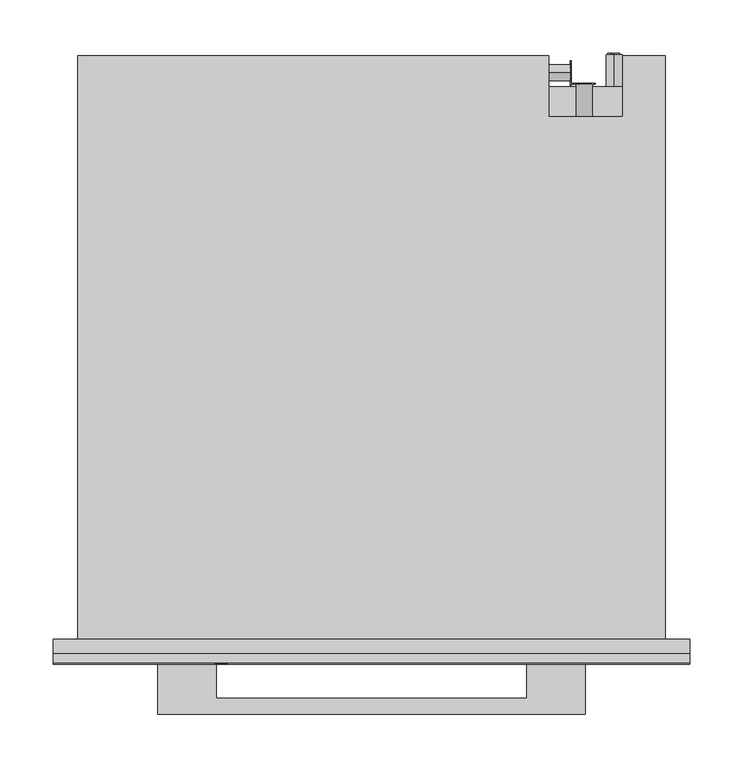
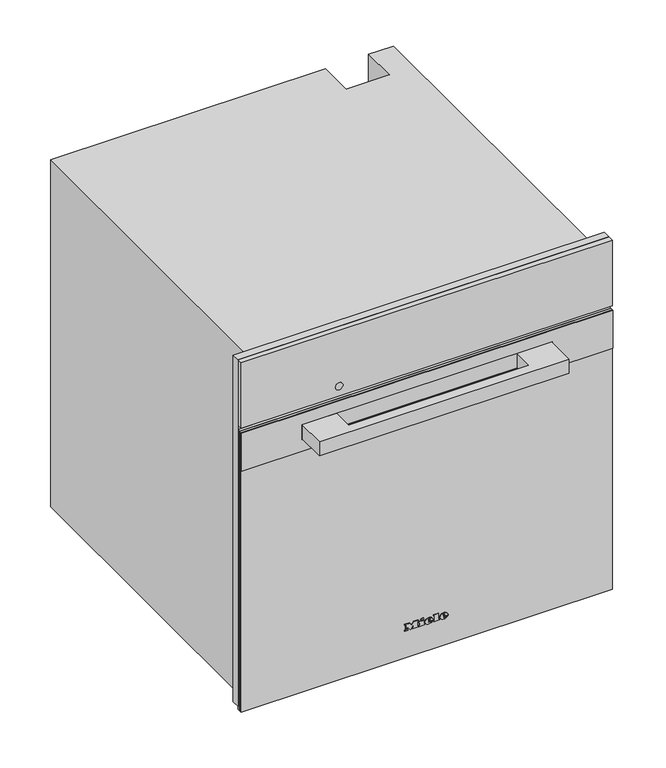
"""IFC4 building model written with IfcOpenShell, lengths in millimetres: proxy geometry, 12094890_F_DGC7665HCPro_EDST-C : 23766549_F_12094890_DGC7665HCPro_EDST-C."""

import ifcopenshell
import ifcopenshell.guid

model = None  # the IFC model being written
_history = None  # IfcOwnerHistory: only IFC2X3 demands one
_inside = {}  # id of a spatial element -> (the spatial element, [elements in it])
_under = {}  # id of a project, library or spatial element -> (it, [spatial elements below it])
_declared = {}  # id of a project -> (the project, [libraries it declares])
_typed = {}  # id of a type object -> (the type object, [elements of that type])
_made_of = {}  # id of a material, layer set ... -> (it, [elements and type objects made of it])


def new_model(schema):
    """Start an empty IFC model of exactly this schema.

    Asked for "IFC4X3", IfcOpenShell would pick the latest addendum, in which some entities
    have other attributes; the version numbers below select the first issue.
    IFC2X3 requires an IfcOwnerHistory on every rooted entity: one is made here for all.
    """
    global model, _history
    if schema == "IFC4X3":
        model = ifcopenshell.file(schema_version=(4, 3, 0, 0))
    else:
        model = ifcopenshell.file(schema=schema)
    _inside.clear()
    _under.clear()
    _declared.clear()
    _typed.clear()
    _made_of.clear()
    _history = None
    if model.schema == "IFC2X3":
        org = make("IfcOrganization", Name="unknown")
        user = make(
            "IfcPersonAndOrganization",
            ThePerson=make("IfcPerson", FamilyName="unknown"),
            TheOrganization=org,
        )
        app = make(
            "IfcApplication",
            ApplicationDeveloper=org,
            Version="unknown",
            ApplicationFullName="unknown",
            ApplicationIdentifier="unknown",
        )
        _history = make(
            "IfcOwnerHistory",
            OwningUser=user,
            OwningApplication=app,
            ChangeAction="ADDED",
            CreationDate=0,
        )
    return model


def make(cls, **values):
    """One entity of the class cls with the attributes given. An attribute that is None is left unset."""
    return model.create_entity(
        cls, **{name: value for name, value in values.items() if value is not None}
    )


def rooted(cls, **values):
    """An entity with a GlobalId (a new one), such as an element, a storey or a relation."""
    return make(cls, GlobalId=ifcopenshell.guid.new(), OwnerHistory=_history, **values)


def si_unit(unit_type, name, prefix=None):
    """IfcSIUnit, for example si_unit("LENGTHUNIT", "METRE", prefix="MILLI")."""
    return make("IfcSIUnit", UnitType=unit_type, Prefix=prefix, Name=name)


def assignment(units):
    """IfcUnitAssignment: the units of a project."""
    return None if units is None else make("IfcUnitAssignment", Units=units)


def point(xyz):
    """IfcCartesianPoint."""
    return None if xyz is None else make("IfcCartesianPoint", Coordinates=xyz)


def direction(xyz):
    """IfcDirection."""
    return None if xyz is None else make("IfcDirection", DirectionRatios=xyz)


def frame(location, z_axis=None, x_axis=None):
    """IfcAxis2Placement3D, a coordinate frame: its origin and axes. An axis left out is left unset."""
    return make(
        "IfcAxis2Placement3D",
        Location=point(location),
        Axis=direction(z_axis),
        RefDirection=direction(x_axis),
    )


def frame_2d(location, x_axis=None):
    """IfcAxis2Placement2D, a coordinate frame in the plane: its origin and x axis."""
    return make(
        "IfcAxis2Placement2D", Location=point(location), RefDirection=direction(x_axis)
    )


def origin():
    """The frame at (0, 0, 0) with its axes left unset."""
    return frame((0.0, 0.0, 0.0))


def place(relative_to, where):
    """IfcLocalPlacement: puts the frame where relative to a parent placement (None: the world)."""
    return make(
        "IfcLocalPlacement", PlacementRelTo=relative_to, RelativePlacement=where
    )


def context(
    kind, dimensions, precision=None, world=None, true_north=None, identifier=None
):
    """IfcGeometricRepresentationContext, for example the 3D "Model" context."""
    return make(
        "IfcGeometricRepresentationContext",
        ContextIdentifier=identifier,
        ContextType=kind,
        CoordinateSpaceDimension=dimensions,
        Precision=precision,
        WorldCoordinateSystem=world,
        TrueNorth=true_north,
    )


def project(units=None, contexts=None):
    """IfcProject with its units and contexts."""
    return rooted(
        "IfcProject",
        Name="project",
        RepresentationContexts=contexts,
        UnitsInContext=assignment(units),
    )


def spatial(cls, under=None, at=None, **own):
    """A site, building, storey or space (cls), placed at a placement, below another one or the project."""
    s = rooted(cls, ObjectPlacement=at, **own)
    if under is not None:
        _under.setdefault(under.id(), (under, []))[1].append(s)
    return s


def polyline(points):
    """IfcPolyline through the points."""
    return make("IfcPolyline", Points=[point(p) for p in points])


def circle_curve(where, radius):
    """IfcCircle in the frame where."""
    return make("IfcCircle", Position=where, Radius=radius)


def ellipse_curve(where, semi_axis1, semi_axis2):
    """IfcEllipse in the frame where."""
    return make(
        "IfcEllipse", Position=where, SemiAxis1=semi_axis1, SemiAxis2=semi_axis2
    )


def trimmed(basis, trim1, trim2, sense, master):
    """IfcTrimmedCurve: the piece of a basis curve between two trims."""
    return make(
        "IfcTrimmedCurve",
        BasisCurve=basis,
        Trim1=trim1,
        Trim2=trim2,
        SenseAgreement=sense,
        MasterRepresentation=master,
    )


def segment(curve, same_sense, transition):
    """IfcCompositeCurveSegment."""
    return make(
        "IfcCompositeCurveSegment",
        Transition=transition,
        SameSense=same_sense,
        ParentCurve=curve,
    )


def composite_curve(segments, self_intersect=None):
    """IfcCompositeCurve: segments joined end to end."""
    return make("IfcCompositeCurve", Segments=segments, SelfIntersect=self_intersect)


def outline(outer, holes=None, kind="AREA"):
    """IfcArbitraryClosedProfileDef: a profile drawn as a closed curve; with holes, ...WithVoids."""
    if holes is None:
        return make("IfcArbitraryClosedProfileDef", ProfileType=kind, OuterCurve=outer)
    return make(
        "IfcArbitraryProfileDefWithVoids",
        ProfileType=kind,
        OuterCurve=outer,
        InnerCurves=holes,
    )


def extrude(swept, where, along, depth):
    """IfcExtrudedAreaSolid: the profile swept, set in the frame where, extruded along a direction by depth."""
    return make(
        "IfcExtrudedAreaSolid",
        SweptArea=swept,
        Position=where,
        ExtrudedDirection=direction(along),
        Depth=depth,
    )


def faces_of(points, faces, orient=None, outer=None):
    """IfcFace entities. A face is a list of loops; a loop is a list of indices into points, from 0.

    orient and outer hold one flag for each loop. By default every Orientation is true, the
    first loop of a face is its IfcFaceOuterBound and the others are IfcFaceBound.
    """
    made = []
    for i, loops in enumerate(faces):
        bounds = []
        for j, loop in enumerate(loops):
            is_outer = j == 0 if outer is None else outer[i][j]
            bounds.append(
                make(
                    "IfcFaceOuterBound" if is_outer else "IfcFaceBound",
                    Bound=make("IfcPolyLoop", Polygon=[points[k] for k in loop]),
                    Orientation=True if orient is None else orient[i][j],
                )
            )
        made.append(make("IfcFace", Bounds=bounds))
    return made


def faceted_brep(points, faces, orient=None, outer=None, voids=None):
    """IfcFacetedBrep: a solid bounded by flat faces; with voids (closed shells), ...WithVoids."""
    shared = [point(p) for p in points]
    hull = make("IfcClosedShell", CfsFaces=faces_of(shared, faces, orient, outer))
    if voids is None:
        return make("IfcFacetedBrep", Outer=hull)
    return make(
        "IfcFacetedBrepWithVoids",
        Outer=hull,
        Voids=[
            make(cls, CfsFaces=faces_of(shared, fs, o, b)) for cls, fs, o, b in voids
        ],
    )


def shape(context_of_items, identifier, shape_type, items):
    """IfcShapeRepresentation: the items that make up one representation, for example the "Body"."""
    return make(
        "IfcShapeRepresentation",
        ContextOfItems=context_of_items,
        RepresentationIdentifier=identifier,
        RepresentationType=shape_type,
        Items=items,
    )


def source(mapping_origin, context_of_items, identifier, shape_type, items):
    """IfcRepresentationMap: a shape defined once, which mapped items show again and again."""
    return make(
        "IfcRepresentationMap",
        MappingOrigin=mapping_origin,
        MappedRepresentation=shape(context_of_items, identifier, shape_type, items),
    )


def transform(
    local_origin,
    x_axis=None,
    y_axis=None,
    z_axis=None,
    scale=None,
    scale2=None,
    scale3=None,
    uniform=True,
):
    """IfcCartesianTransformationOperator3D, or its non-uniform kind. x_axis, y_axis, z_axis: its Axis1, 2, 3."""
    if uniform:
        return make(
            "IfcCartesianTransformationOperator3D",
            Axis1=direction(x_axis),
            Axis2=direction(y_axis),
            LocalOrigin=point(local_origin),
            Scale=scale,
            Axis3=direction(z_axis),
        )
    return make(
        "IfcCartesianTransformationOperator3DnonUniform",
        Axis1=direction(x_axis),
        Axis2=direction(y_axis),
        LocalOrigin=point(local_origin),
        Scale=scale,
        Axis3=direction(z_axis),
        Scale2=scale2,
        Scale3=scale3,
    )


def mapped(mapping_source, mapping_target):
    """IfcMappedItem: shows the shape of a source again, moved by a transform."""
    return make(
        "IfcMappedItem", MappingSource=mapping_source, MappingTarget=mapping_target
    )


def made_of(thing, what):
    """Note that an element or type object is made of a material, layer set ...; save() writes the relation."""
    if what is not None:
        _made_of.setdefault(what.id(), (what, []))[1].append(thing)
    return thing


def element(
    cls,
    number,
    at=None,
    inside=None,
    cuts=None,
    type_object=None,
    material=None,
    context=None,
    identifier="Body",
    shape_type=None,
    held_by="IfcProductDefinitionShape",
    body=None,
    shapes=None,
    **own,
):
    """One element of the class cls, such as IfcWall. Its Tag is "e" and its number.

    at: its placement. inside: the storey or other place that contains it. cuts: it is an
    opening in that element (IfcRelVoidsElement). A single representation is given by context,
    identifier, shape_type and body (its items); several are given by shapes. held_by: the class
    of the entity that holds the representations. save() writes the other relations.
    """
    e = rooted(cls, Tag="e%d" % number, ObjectPlacement=at, **own)
    if body is not None:
        shapes = [shape(context, identifier, shape_type, body)]
    if shapes is not None:
        e.Representation = make(held_by, Representations=shapes)
    if inside is not None:
        _inside.setdefault(inside.id(), (inside, []))[1].append(e)
    if cuts is not None:
        rooted(
            "IfcRelVoidsElement", RelatingBuildingElement=cuts, RelatedOpeningElement=e
        )
    if type_object is not None:
        _typed.setdefault(type_object.id(), (type_object, []))[1].append(e)
    return made_of(e, material)


def aggregate(whole, parts):
    """IfcRelAggregates: a whole, such as a stair, and the parts it consists of."""
    return rooted("IfcRelAggregates", RelatingObject=whole, RelatedObjects=parts)


def save(model, path):
    """Write the relations noted so far, then the file.

    IfcRelAggregates (storeys below a building ...), IfcRelContainedInSpatialStructure (elements
    in a storey), IfcRelDefinesByType, IfcRelAssociatesMaterial and IfcRelDeclares: one each for
    every whole, place, type object, material and project.
    """
    for whole, parts in _under.values():
        aggregate(whole, parts)
    for where, things in _inside.values():
        rooted(
            "IfcRelContainedInSpatialStructure",
            RelatedElements=things,
            RelatingStructure=where,
        )
    for kind, things in _typed.values():
        rooted("IfcRelDefinesByType", RelatedObjects=things, RelatingType=kind)
    for what, things in _made_of.values():
        rooted("IfcRelAssociatesMaterial", RelatedObjects=things, RelatingMaterial=what)
    for by, libraries in _declared.values():
        rooted("IfcRelDeclares", RelatingContext=by, RelatedDefinitions=libraries)
    model.write(path)


def plane_surface(at):
    """IfcPlane: the flat surface through the origin of the frame at, square to its z axis."""
    return make("IfcPlane", Position=at)


def cylinder_surface(at, radius):
    """IfcCylindricalSurface: all points at the distance radius from the z axis of the frame at."""
    return make("IfcCylindricalSurface", Position=at, Radius=radius)


def revolved_surface(curve, axis_point, axis_direction):
    """IfcSurfaceOfRevolution: the curve turned about the line through axis_point along axis_direction."""
    return make(
        "IfcSurfaceOfRevolution",
        SweptCurve=make("IfcArbitraryOpenProfileDef", ProfileType="CURVE", Curve=curve),
        AxisPosition=make("IfcAxis1Placement", Location=point(axis_point), Axis=direction(axis_direction)),
    )


def extruded_surface(curve, direction_of_extrusion, depth):
    """IfcSurfaceOfLinearExtrusion: the curve pushed along a direction by depth."""
    return make(
        "IfcSurfaceOfLinearExtrusion",
        SweptCurve=make("IfcArbitraryOpenProfileDef", ProfileType="CURVE", Curve=curve),
        ExtrudedDirection=direction(direction_of_extrusion),
        Depth=depth,
    )


def advanced_brep(points, edges, surfaces, faces):
    """IfcAdvancedBrep: a solid bounded by faces that lie on surfaces and meet in shared edges.

    An edge is (start, end): straight between two places in points (the first is 0);
    or (start, end, curve); or (start, end, curve, False) where it runs against its curve.
    A face is (place in surfaces, loops), or (place, loops, False) where it looks against
    its surface's normal. A loop lists edges by number (the first is 1), with a minus sign
    where the edge is run from its end to its start. The first loop is the outer one.
    """
    corners = [point(p) for p in points]
    vertices = [make("IfcVertexPoint", VertexGeometry=c) for c in corners]
    made = []
    for start, end, *more in edges:
        made.append(
            make(
                "IfcEdgeCurve",
                EdgeStart=vertices[start],
                EdgeEnd=vertices[end],
                EdgeGeometry=more[0] if more else make("IfcPolyline", Points=[corners[start], corners[end]]),
                SameSense=more[1] if len(more) > 1 else True,
            )
        )
    hull = []
    for where, loops, *sense in faces:
        bounds = []
        for j, loop in enumerate(loops):
            ring = [make("IfcOrientedEdge", EdgeElement=made[abs(k) - 1], Orientation=k > 0) for k in loop]
            bounds.append(
                make(
                    "IfcFaceOuterBound" if j == 0 else "IfcFaceBound",
                    Bound=make("IfcEdgeLoop", EdgeList=ring),
                    Orientation=True,
                )
            )
        hull.append(make("IfcAdvancedFace", Bounds=bounds, FaceSurface=surfaces[where], SameSense=sense[0] if sense else True))
    return make("IfcAdvancedBrep", Outer=make("IfcClosedShell", CfsFaces=hull))


def specialty_equipment_527323cb(model_context):
    return source(origin(), model_context, "Body", "SolidModel", [
        extrude(outline(polyline([(596.0, 297.5), (596.0, -297.5), (9.0, -297.5), (9.0, 297.5), (596.0, 297.5)]), holes=[polyline([(485.0, -272.5), (485.0, 272.5), (27.0, 272.5), (27.0, -272.5), (485.0, -272.5)])]), frame((0.0, -13.0, 0.0), z_axis=(0.0, 1.0, 0.0), x_axis=(0.0, 0.0, 1.0)), (0.0, 0.0, 1.0), 13.0),
        extrude(outline(polyline([(523.0, 196.9217896), (523.0, 198.4267862), (533.0435673, 201.1942402), (533.0435673, 199.9014806), (524.4295103, 197.7797951), (533.0470645, 195.3087512), (533.0470645, 193.4373937), (524.4121052, 190.9191482), (533.0472266, 188.8443938), (533.0472266, 187.5376524), (523.0, 190.2769667), (523.0, 191.6257455), (531.8347238, 194.3884733), (523.0, 196.9217896)])), frame((0.0, 519.0, 0.0), z_axis=(0.0, 1.0, 0.0), x_axis=(0.0, 0.0, 1.0)), (0.0, 0.0, 1.0), 1.0),
        extrude(outline(polyline([(533.0468463, 209.521488), (533.0468463, 208.2566067), (528.129594, 208.2566067), (533.0474898, 203.1074328), (533.0474898, 201.3597489), (528.9313111, 205.6695027), (523.0, 201.1858157), (523.0, 202.7358731), (528.0700777, 206.5685235), (526.4282746, 208.2823622), (523.0, 208.2823622), (523.0, 209.521488), (533.0468463, 209.521488)])), frame((0.0, 519.0, 0.0), z_axis=(0.0, 1.0, 0.0), x_axis=(0.0, 0.0, 1.0)), (0.0, 0.0, 1.0), 1.0),
        extrude(outline(polyline([(518.3136153, 20.0), (522.323529, 30.045631), (523.3928394, 30.045631), (527.4027531, 20.0), (526.0759254, 20.0), (524.925681, 23.1392597), (520.7882348, 23.1392597), (519.640443, 20.0), (518.3136153, 20.0)]), holes=[polyline([(521.2493136, 24.3949636), (524.4670548, 24.3949636), (523.5620651, 26.864678), (522.8581842, 28.7899271), (522.2327848, 27.0805021), (521.2493136, 24.3949636)])]), frame((186.0, 0.0, 0.0), z_axis=(1.0, 0.0, 0.0), x_axis=(0.0, 1.0, 0.0)), (0.0, 0.0, 1.0), 1.0),
        extrude(outline(polyline([(530.5420128, 20.0), (527.8025182, 30.045631), (529.0974628, 30.045631), (530.6867131, 23.4433755), (531.1772224, 21.4053092), (531.7020674, 23.207931), (533.6935352, 30.045631), (535.5599232, 30.045631), (537.0069257, 25.0890343), (538.0835937, 21.4053092), (538.5593878, 23.3845144), (540.1633533, 30.045631), (541.4582979, 30.045631), (538.7163507, 20.0), (537.3748077, 20.0), (534.9664069, 27.7500474), (534.630408, 28.8316204), (534.2527159, 27.5293182), (532.0576866, 20.0), (530.5420128, 20.0)])), frame((186.0, 0.0, 0.0), z_axis=(1.0, 0.0, 0.0), x_axis=(0.0, 1.0, 0.0)), (0.0, 0.0, 1.0), 1.0),
        advanced_brep(
        [(227.0, 547.0, 396.5), (227.0, 547.0, 381.5), (221.4098301, 547.0, 384.0), (225.5, 547.0, 384.0), (225.5, 547.0, 394.0), (224.4955303, 547.0, 394.0), (224.4955303, 547.0, 385.0), (221.0315043, 547.0, 385.0), (221.0315043, 547.0, 384.4582978), (232.0, 547.0, 384.0), (232.0, 547.0, 394.0), (227.0, 547.0, 394.0), (227.0, 547.0, 393.0), (231.0, 547.0, 393.0), (231.0, 547.0, 389.5), (228.0, 547.0, 389.5), (228.0, 547.0, 388.5), (231.0, 547.0, 388.5), (231.0, 547.0, 385.0), (227.0, 547.0, 385.0), (227.0, 547.0, 384.0), (227.0, 517.0, 381.5), (227.0, 517.0, 396.5), (232.0, 548.0, 394.0), (232.0, 548.0, 384.0), (227.0, 548.0, 384.0), (227.0, 548.0, 385.0), (231.0, 548.0, 385.0), (231.0, 548.0, 388.5), (228.0, 548.0, 388.5), (228.0, 548.0, 389.5), (231.0, 548.0, 389.5), (231.0, 548.0, 393.0), (227.0, 548.0, 393.0), (227.0, 548.0, 394.0), (225.5, 548.0, 384.0), (221.0315043, 548.0, 384.0), (221.0315043, 548.0, 385.0), (224.4955303, 548.0, 385.0), (224.4955303, 548.0, 394.0), (225.5, 548.0, 394.0), (221.0315043, 547.0, 384.0)],
        [
            (0, 1, circle_curve(frame((227.0, 547.0, 389.0), z_axis=(0.0, 1.0, 0.0), x_axis=(0.0, 0.0, 1.0)), 7.5)),
            (1, 2, circle_curve(frame((227.0, 547.0, 389.0), z_axis=(0.0, 1.0, 0.0), x_axis=(0.0, 0.0, 1.0)), 7.5)),
            (2, 3),
            (3, 4),
            (4, 5),
            (5, 6),
            (6, 7),
            (7, 8),
            (8, 0, circle_curve(frame((227.0, 547.0, 389.0), z_axis=(0.0, 1.0, 0.0), x_axis=(0.0, 0.0, 1.0)), 7.5)),
            (9, 10),
            (10, 11),
            (11, 12),
            (12, 13),
            (13, 14),
            (14, 15),
            (15, 16),
            (16, 17),
            (17, 18),
            (18, 19),
            (19, 20),
            (20, 9),
            (21, 22, circle_curve(frame((227.0, 517.0, 389.0), z_axis=(0.0, -1.0, 0.0), x_axis=(0.0, 0.0, 1.0)), 7.5)),
            (22, 21, circle_curve(frame((227.0, 517.0, 389.0), z_axis=(0.0, -1.0, 0.0), x_axis=(0.0, 0.0, 1.0)), 7.5)),
            (0, 22),
            (21, 1),
            (8, 2, circle_curve(frame((227.0, 547.0, 389.0), z_axis=(0.0, -1.0, 0.0), x_axis=(0.0, 0.0, 1.0)), 7.5)),
            (23, 24),
            (24, 25),
            (25, 26),
            (26, 27),
            (27, 28),
            (28, 29),
            (29, 30),
            (30, 31),
            (31, 32),
            (32, 33),
            (33, 34),
            (34, 23),
            (35, 36),
            (36, 37),
            (37, 38),
            (38, 39),
            (39, 40),
            (40, 35),
            (8, 41),
            (41, 2),
            (23, 10),
            (9, 24),
            (20, 25),
            (19, 26),
            (18, 27),
            (17, 28),
            (16, 29),
            (15, 30),
            (14, 31),
            (13, 32),
            (12, 33),
            (11, 34),
            (35, 3),
            (41, 36),
            (7, 37),
            (6, 38),
            (5, 39),
            (4, 40),
        ],
        [
            plane_surface(frame((227.0, 547.0, 396.5), z_axis=(0.0, 1.0, 0.0), x_axis=(1.0, 0.0, 0.0))),
            plane_surface(frame((227.0, 517.0, 396.5), z_axis=(0.0, -1.0, 0.0), x_axis=(-1.0, 0.0, 0.0))),
            cylinder_surface(frame((227.0, 547.0, 389.0), z_axis=(0.0, -1.0, 0.0), x_axis=(0.0, 0.0, 1.0)), 7.5),
            plane_surface(frame((232.0, 548.0, 394.0), z_axis=(0.0, 1.0, 0.0), x_axis=(0.0, 0.0, -1.0))),
            plane_surface(frame((232.0, 547.0, 394.0), z_axis=(0.0, -1.0, 0.0), x_axis=(0.0, 0.0, 1.0))),
            plane_surface(frame((232.0, 548.0, 394.0), z_axis=(1.0, 0.0, 0.0), x_axis=(0.0, -1.0, 0.0))),
            plane_surface(frame((232.0, 548.0, 384.0), z_axis=(0.0, 0.0, -1.0), x_axis=(0.0, -1.0, 0.0))),
            plane_surface(frame((227.0, 548.0, 384.0), z_axis=(-1.0, 0.0, 0.0), x_axis=(0.0, -1.0, 0.0))),
            plane_surface(frame((227.0, 548.0, 385.0), z_axis=(0.0, 0.0, 1.0), x_axis=(0.0, -1.0, 0.0))),
            plane_surface(frame((231.0, 548.0, 385.0), z_axis=(-1.0, 0.0, 0.0), x_axis=(0.0, -1.0, 0.0))),
            plane_surface(frame((231.0, 548.0, 388.5), z_axis=(0.0, 0.0, -1.0), x_axis=(0.0, -1.0, 0.0))),
            plane_surface(frame((228.0, 548.0, 388.5), z_axis=(-1.0, 0.0, 0.0), x_axis=(0.0, -1.0, 0.0))),
            plane_surface(frame((228.0, 548.0, 389.5), z_axis=(0.0, 0.0, 1.0), x_axis=(0.0, -1.0, 0.0))),
            plane_surface(frame((231.0, 548.0, 389.5), z_axis=(-1.0, 0.0, 0.0), x_axis=(0.0, -1.0, 0.0))),
            plane_surface(frame((231.0, 548.0, 393.0), z_axis=(0.0, 0.0, -1.0), x_axis=(0.0, -1.0, 0.0))),
            plane_surface(frame((227.0, 548.0, 393.0), z_axis=(-1.0, 0.0, 0.0), x_axis=(0.0, -1.0, 0.0))),
            plane_surface(frame((227.0, 548.0, 394.0), z_axis=(0.0, 0.0, 1.0), x_axis=(0.0, -1.0, 0.0))),
            plane_surface(frame((225.5, 548.0, 384.0), z_axis=(0.0, 0.0, -1.0), x_axis=(0.0, -1.0, 0.0))),
            plane_surface(frame((221.0315043, 548.0, 384.0), z_axis=(-1.0, 0.0, 0.0), x_axis=(0.0, -1.0, 0.0))),
            plane_surface(frame((221.0315043, 548.0, 385.0), z_axis=(0.0, 0.0, 1.0), x_axis=(0.0, -1.0, 0.0))),
            plane_surface(frame((224.4955303, 548.0, 385.0), z_axis=(-1.0, 0.0, 0.0), x_axis=(0.0, -1.0, 0.0))),
            plane_surface(frame((224.4955303, 548.0, 394.0), z_axis=(0.0, 0.0, 1.0), x_axis=(0.0, -1.0, 0.0))),
            plane_surface(frame((225.5, 548.0, 394.0), z_axis=(1.0, 0.0, 0.0), x_axis=(0.0, -1.0, 0.0))),
        ],
        [
            (0, [[1, 2, 3, 4, 5, 6, 7, 8, 9], [10, 11, 12, 13, 14, 15, 16, 17, 18, 19, 20, 21]]),
            (1, [[22, 23]]),
            (2, [[-1, 24, -22, 25]]),
            (2, [[-23, -24, -9, 26, -2, -25]]),
            (3, [[27, 28, 29, 30, 31, 32, 33, 34, 35, 36, 37, 38]]),
            (3, [[39, 40, 41, 42, 43, 44]]),
            (4, [[45, 46, -26]]),
            (5, [[-27, 47, -10, 48]]),
            (6, [[-28, -48, -21, 49]]),
            (7, [[-29, -49, -20, 50]]),
            (8, [[-30, -50, -19, 51]]),
            (9, [[-31, -51, -18, 52]]),
            (10, [[-32, -52, -17, 53]]),
            (11, [[-33, -53, -16, 54]]),
            (12, [[-34, -54, -15, 55]]),
            (13, [[-35, -55, -14, 56]]),
            (14, [[-36, -56, -13, 57]]),
            (15, [[-37, -57, -12, 58]]),
            (16, [[-38, -58, -11, -47]]),
            (17, [[-39, 59, -3, -46, 60]]),
            (18, [[-40, -60, -45, -8, 61]]),
            (19, [[-41, -61, -7, 62]]),
            (20, [[-42, -62, -6, 63]]),
            (21, [[-43, -63, -5, 64]]),
            (22, [[-44, -64, -4, -59]]),
        ],
    ),
        extrude(outline(composite_curve([segment(trimmed(circle_curve(frame_2d((528.0, 199.0)), 7.5), [point((528.0, 206.5))], [point((528.0, 191.5))], False, "CARTESIAN"), True, "CONTINUOUS"), segment(trimmed(circle_curve(frame_2d((528.0, 199.0)), 7.5), [point((528.0, 191.5))], [point((528.0, 206.5))], False, "CARTESIAN"), True, "CONTINUOUS")], self_intersect=False)), frame((0.0, 489.0, 0.0), z_axis=(0.0, 1.0, 0.0), x_axis=(0.0, 0.0, 1.0)), (0.0, 0.0, 1.0), 30.0),
        extrude(outline(composite_curve([segment(trimmed(circle_curve(frame_2d((530.0, 25.0)), 7.5), [point((530.0, 17.5))], [point((530.0, 32.5))], False, "CARTESIAN"), True, "CONTINUOUS"), segment(trimmed(circle_curve(frame_2d((530.0, 25.0)), 7.5), [point((530.0, 32.5))], [point((530.0, 17.5))], False, "CARTESIAN"), True, "CONTINUOUS")], self_intersect=False)), frame((166.0, 0.0, 0.0), z_axis=(1.0, 0.0, 0.0), x_axis=(0.0, 1.0, 0.0)), (0.0, 0.0, 1.0), 20.0),
        faceted_brep([(-275.0, 546.0, 0.0), (-275.0, 546.0, 588.0), (166.0, 546.0, 588.0), (166.0, 546.0, 0.0), (235.0, 546.0, 588.0), (275.0, 546.0, 588.0), (275.0, 546.0, 478.0), (235.0, 546.0, 478.0), (275.0, 0.0, 588.0), (-275.0, 0.0, 588.0), (-275.0, 0.0, 0.0), (275.0, 0.0, 0.0), (-272.5, 0.0, 485.0), (272.5, 0.0, 485.0), (272.5, 0.0, 27.0), (-272.5, 0.0, 27.0), (235.0, 489.0, 588.0), (166.0, 489.0, 588.0), (166.0, 517.0, 0.0), (275.0, 517.0, 0.0), (275.0, 517.0, 478.0), (272.5, 17.0, 485.0), (-272.5, 17.0, 485.0), (-272.5, 17.0, 27.0), (272.5, 17.0, 27.0), (231.0, 17.0, 409.0), (231.0, 17.0, 61.0), (-231.0, 17.0, 61.0), (-231.0, 17.0, 409.0), (231.0, 411.0, 409.0), (-231.0, 411.0, 409.0), (-231.0, 411.0, 61.0), (231.0, 411.0, 61.0), (235.0, 489.0, 477.0), (166.0, 489.0, 477.0), (166.0, 517.0, 477.0), (235.0, 517.0, 477.0), (235.0, 517.0, 478.0)], [[[0, 1, 2, 3]], [[4, 5, 6, 7]], [[8, 9, 10, 11], [12, 13, 14, 15]], [[9, 8, 5, 4, 16, 17, 2, 1]], [[1, 0, 10, 9]], [[11, 10, 0, 3, 18, 19]], [[8, 11, 19, 20, 6, 5]], [[21, 22, 23, 24], [25, 26, 27, 28]], [[22, 21, 13, 12]], [[23, 22, 12, 15]], [[24, 23, 15, 14]], [[21, 24, 14, 13]], [[29, 30, 31, 32]], [[29, 32, 26, 25]], [[32, 31, 27, 26]], [[31, 30, 28, 27]], [[30, 29, 25, 28]], [[16, 33, 34, 17]], [[17, 34, 35, 18, 3, 2]], [[34, 33, 36, 35]], [[33, 16, 4, 7, 37, 36]], [[37, 20, 19, 18, 35, 36]], [[20, 37, 7, 6]]]),
        advanced_brep(
        [(26.2998, -23.0, 52.7018), (26.2998, -23.0, 53.8532), (33.9264, -23.0, 53.8532), (20.6568, -23.0, 53.8532), (23.7918, -23.0, 50.0), (33.7326, -23.0, 52.7018), (30.2898, -23.0, 52.7018), (27.5766, -23.0, 51.425), (26.2998, -23.0, 55.3124), (26.2998, -23.0, 56.555), (28.2492, -23.0, 56.555), (28.2492, -23.0, 55.3124), (26.2998, -22.0, 52.7018), (27.5766, -22.0, 51.425), (30.2898, -22.0, 52.7018), (33.7326, -22.0, 52.7018), (23.7918, -22.0, 50.0), (20.6568, -22.0, 53.8532), (33.9264, -22.0, 53.8532), (26.2998, -22.0, 53.8532), (26.2998, -22.0, 55.3124), (28.2492, -22.0, 55.3124), (28.2492, -22.0, 56.555), (26.2998, -22.0, 56.555)],
        [
            (0, 1),
            (1, 2),
            (2, 3, ellipse_curve(frame((27.2916, -23.0, 53.8532), z_axis=(0.0, -1.0, 0.0), x_axis=(-1.0, 0.0, 0.0)), 6.6348, 5.4834)),
            (3, 4, circle_curve(frame((25.0686622, -23.0, 54.2408), z_axis=(0.0, -1.0, 0.0), x_axis=(0.0, 0.0, -1.0)), 4.4288556)),
            (4, 5, circle_curve(frame((27.1587808, -23.0, 57.2504), z_axis=(0.0, -1.0, 0.0), x_axis=(0.0, 0.0, -1.0)), 7.9940516)),
            (5, 6),
            (6, 7, circle_curve(frame((28.1338588, -23.0, 53.762), z_axis=(0.0, 1.0, 0.0), x_axis=(0.0, 0.0, -1.0)), 2.4025208)),
            (7, 0, circle_curve(frame((27.5766, -23.0, 52.7018), z_axis=(0.0, 1.0, 0.0), x_axis=(0.0, 0.0, -1.0)), 1.2768)),
            (8, 9),
            (9, 10, circle_curve(frame((27.2745, -23.0, 56.555), z_axis=(0.0, 1.0, 0.0), x_axis=(0.0, 0.0, -1.0)), 0.9747)),
            (10, 11),
            (11, 8),
            (12, 13, circle_curve(frame((27.5766, -22.0, 52.7018), z_axis=(0.0, -1.0, 0.0), x_axis=(0.0, 0.0, -1.0)), 1.2768)),
            (13, 14, circle_curve(frame((28.1338588, -22.0, 53.762), z_axis=(0.0, -1.0, 0.0), x_axis=(0.0, 0.0, -1.0)), 2.4025208)),
            (14, 15),
            (15, 16, circle_curve(frame((27.1587808, -22.0, 57.2504), z_axis=(0.0, 1.0, 0.0), x_axis=(0.0, 0.0, -1.0)), 7.9940516)),
            (16, 17, circle_curve(frame((25.0686622, -22.0, 54.2408), z_axis=(0.0, 1.0, 0.0), x_axis=(0.0, 0.0, -1.0)), 4.4288556)),
            (17, 18, ellipse_curve(frame((27.2916, -22.0, 53.8532), z_axis=(0.0, 1.0, 0.0), x_axis=(-1.0, 0.0, 0.0)), 6.6348, 5.4834)),
            (18, 19),
            (19, 12),
            (20, 21),
            (21, 22),
            (22, 23, circle_curve(frame((27.2745, -22.0, 56.555), z_axis=(0.0, -1.0, 0.0), x_axis=(0.0, 0.0, -1.0)), 0.9747)),
            (23, 20),
            (0, 12),
            (19, 1),
            (18, 2),
            (5, 15),
            (14, 6),
            (17, 3),
            (13, 7),
            (16, 4),
            (8, 20),
            (23, 9),
            (22, 10),
            (21, 11),
        ],
        [
            plane_surface(frame((26.2998, -23.0, 53.8532), z_axis=(0.0, -1.0, 0.0), x_axis=(0.0, 0.0, 1.0))),
            plane_surface(frame((26.2998, -22.0, 53.8532), z_axis=(0.0, 1.0, 0.0), x_axis=(0.0, 0.0, -1.0))),
            plane_surface(frame((26.2998, -23.0, 52.7018), z_axis=(1.0, 0.0, 0.0), x_axis=(0.0, 1.0, 0.0))),
            plane_surface(frame((26.2998, -23.0, 53.8532), z_axis=(0.0, 0.0, -1.0), x_axis=(0.0, 1.0, 0.0))),
            plane_surface(frame((33.7326, -23.0, 52.7018), z_axis=(0.0, 0.0, 1.0), x_axis=(0.0, 1.0, 0.0))),
            extruded_surface(trimmed(ellipse_curve(frame((27.2916, -21.0, 53.8532), z_axis=(0.0, -1.0, 0.0), x_axis=(-1.0, 0.0, 0.0)), 6.6348, 5.4834), [point((33.9264, -21.0, 53.8532))], [point((20.6568, -21.0, 53.8532))], True, "CARTESIAN"), (0.0, -1.0, 0.0), 1.0),
            revolved_surface(polyline([(28.1338588, -22.0, 51.3594792), (28.1338588, -23.0, 51.3594792)]), (28.1338588, -22.0, 53.762), (0.0, 1.0, 0.0)),
            revolved_surface(polyline([(27.5766, -22.0, 51.425), (27.5766, -23.0, 51.425)]), (27.5766, -22.0, 52.7018), (0.0, 1.0, 0.0)),
            cylinder_surface(frame((25.0686622, -22.0, 54.2408), z_axis=(0.0, -1.0, 0.0), x_axis=(0.0, 0.0, -1.0)), 4.4288556),
            cylinder_surface(frame((27.1587808, -22.0, 57.2504), z_axis=(0.0, -1.0, 0.0), x_axis=(0.0, 0.0, -1.0)), 7.9940516),
            plane_surface(frame((26.2998, -23.0, 55.3124), z_axis=(1.0, 0.0, 0.0), x_axis=(0.0, 1.0, 0.0))),
            revolved_surface(polyline([(27.2745, -22.0, 55.5803), (27.2745, -23.0, 55.5803)]), (27.2745, -22.0, 56.555), (0.0, 1.0, 0.0)),
            plane_surface(frame((28.2492, -23.0, 56.555), z_axis=(-1.0, 0.0, 0.0), x_axis=(0.0, 1.0, 0.0))),
            plane_surface(frame((28.2492, -23.0, 55.3124), z_axis=(0.0, 0.0, 1.0), x_axis=(0.0, 1.0, 0.0))),
        ],
        [
            (0, [[1, 2, 3, 4, 5, 6, 7, 8], [9, 10, 11, 12]]),
            (1, [[13, 14, 15, 16, 17, 18, 19, 20], [21, 22, 23, 24]]),
            (2, [[-1, 25, -20, 26]]),
            (3, [[-2, -26, -19, 27]]),
            (4, [[-6, 28, -15, 29]]),
            (5, [[-3, -27, -18, 30]]),
            (6, [[-7, -29, -14, 31]]),
            (7, [[-8, -31, -13, -25]]),
            (8, [[-4, -30, -17, 32]]),
            (9, [[-5, -32, -16, -28]]),
            (10, [[-9, 33, -24, 34]]),
            (11, [[-10, -34, -23, 35]]),
            (12, [[-11, -35, -22, 36]]),
            (13, [[-12, -36, -21, -33]]),
        ],
    ),
        advanced_brep(
        [(2.508, -23.0, 52.7018), (2.508, -23.0, 53.8532), (10.1346, -23.0, 53.8532), (-3.135, -23.0, 53.8532), (0.0, -23.0, 50.0), (9.9408, -23.0, 52.7018), (6.498, -23.0, 52.7018), (3.7848, -23.0, 51.425), (2.508, -23.0, 55.3124), (2.508, -23.0, 56.555), (4.4574, -23.0, 56.555), (4.4574, -23.0, 55.3124), (2.508, -22.0, 52.7018), (3.7848, -22.0, 51.425), (6.498, -22.0, 52.7018), (9.9408, -22.0, 52.7018), (0.0, -22.0, 50.0), (-3.135, -22.0, 53.8532), (10.1346, -22.0, 53.8532), (2.508, -22.0, 53.8532), (2.508, -22.0, 55.3124), (4.4574, -22.0, 55.3124), (4.4574, -22.0, 56.555), (2.508, -22.0, 56.555)],
        [
            (0, 1),
            (1, 2),
            (2, 3, ellipse_curve(frame((3.4998, -23.0, 53.8532), z_axis=(0.0, -1.0, 0.0), x_axis=(-1.0, 0.0, 0.0)), 6.6348, 5.4834)),
            (3, 4, circle_curve(frame((1.2768622, -23.0, 54.2408), z_axis=(0.0, -1.0, 0.0), x_axis=(0.0, 0.0, -1.0)), 4.4288556)),
            (4, 5, circle_curve(frame((3.3669808, -23.0, 57.2504), z_axis=(0.0, -1.0, 0.0), x_axis=(0.0, 0.0, -1.0)), 7.9940516)),
            (5, 6),
            (6, 7, circle_curve(frame((4.3420588, -23.0, 53.762), z_axis=(0.0, 1.0, 0.0), x_axis=(0.0, 0.0, -1.0)), 2.4025208)),
            (7, 0, circle_curve(frame((3.7848, -23.0, 52.7018), z_axis=(0.0, 1.0, 0.0), x_axis=(0.0, 0.0, -1.0)), 1.2768)),
            (8, 9),
            (9, 10, circle_curve(frame((3.4827, -23.0, 56.555), z_axis=(0.0, 1.0, 0.0), x_axis=(0.0, 0.0, -1.0)), 0.9747)),
            (10, 11),
            (11, 8),
            (12, 13, circle_curve(frame((3.7848, -22.0, 52.7018), z_axis=(0.0, -1.0, 0.0), x_axis=(0.0, 0.0, -1.0)), 1.2768)),
            (13, 14, circle_curve(frame((4.3420588, -22.0, 53.762), z_axis=(0.0, -1.0, 0.0), x_axis=(0.0, 0.0, -1.0)), 2.4025208)),
            (14, 15),
            (15, 16, circle_curve(frame((3.3669808, -22.0, 57.2504), z_axis=(0.0, 1.0, 0.0), x_axis=(0.0, 0.0, -1.0)), 7.9940516)),
            (16, 17, circle_curve(frame((1.2768622, -22.0, 54.2408), z_axis=(0.0, 1.0, 0.0), x_axis=(0.0, 0.0, -1.0)), 4.4288556)),
            (17, 18, ellipse_curve(frame((3.4998, -22.0, 53.8532), z_axis=(0.0, 1.0, 0.0), x_axis=(-1.0, 0.0, 0.0)), 6.6348, 5.4834)),
            (18, 19),
            (19, 12),
            (20, 21),
            (21, 22),
            (22, 23, circle_curve(frame((3.4827, -22.0, 56.555), z_axis=(0.0, -1.0, 0.0), x_axis=(0.0, 0.0, -1.0)), 0.9747)),
            (23, 20),
            (0, 12),
            (19, 1),
            (18, 2),
            (5, 15),
            (14, 6),
            (17, 3),
            (13, 7),
            (16, 4),
            (8, 20),
            (23, 9),
            (22, 10),
            (21, 11),
        ],
        [
            plane_surface(frame((2.508, -23.0, 53.8532), z_axis=(0.0, -1.0, 0.0), x_axis=(0.0, 0.0, 1.0))),
            plane_surface(frame((2.508, -22.0, 53.8532), z_axis=(0.0, 1.0, 0.0), x_axis=(0.0, 0.0, -1.0))),
            plane_surface(frame((2.508, -23.0, 52.7018), z_axis=(1.0, 0.0, 0.0), x_axis=(0.0, 1.0, 0.0))),
            plane_surface(frame((2.508, -23.0, 53.8532), z_axis=(0.0, 0.0, -1.0), x_axis=(0.0, 1.0, 0.0))),
            plane_surface(frame((9.9408, -23.0, 52.7018), z_axis=(0.0, 0.0, 1.0), x_axis=(0.0, 1.0, 0.0))),
            extruded_surface(trimmed(ellipse_curve(frame((3.4998, -21.0, 53.8532), z_axis=(0.0, -1.0, 0.0), x_axis=(-1.0, 0.0, 0.0)), 6.6348, 5.4834), [point((10.1346, -21.0, 53.8532))], [point((-3.135, -21.0, 53.8532))], True, "CARTESIAN"), (0.0, -1.0, 0.0), 1.0),
            revolved_surface(polyline([(4.3420588, -22.0, 51.3594792), (4.3420588, -23.0, 51.3594792)]), (4.3420588, -22.0, 53.762), (0.0, 1.0, 0.0)),
            revolved_surface(polyline([(3.7848, -22.0, 51.425), (3.7848, -23.0, 51.425)]), (3.7848, -22.0, 52.7018), (0.0, 1.0, 0.0)),
            cylinder_surface(frame((1.2768622, -22.0, 54.2408), z_axis=(0.0, -1.0, 0.0), x_axis=(0.0, 0.0, -1.0)), 4.4288556),
            cylinder_surface(frame((3.3669808, -22.0, 57.2504), z_axis=(0.0, -1.0, 0.0), x_axis=(0.0, 0.0, -1.0)), 7.9940516),
            plane_surface(frame((2.508, -23.0, 55.3124), z_axis=(1.0, 0.0, 0.0), x_axis=(0.0, 1.0, 0.0))),
            revolved_surface(polyline([(3.4827, -22.0, 55.5803), (3.4827, -23.0, 55.5803)]), (3.4827, -22.0, 56.555), (0.0, 1.0, 0.0)),
            plane_surface(frame((4.4574, -23.0, 56.555), z_axis=(-1.0, 0.0, 0.0), x_axis=(0.0, 1.0, 0.0))),
            plane_surface(frame((4.4574, -23.0, 55.3124), z_axis=(0.0, 0.0, 1.0), x_axis=(0.0, 1.0, 0.0))),
        ],
        [
            (0, [[1, 2, 3, 4, 5, 6, 7, 8], [9, 10, 11, 12]]),
            (1, [[13, 14, 15, 16, 17, 18, 19, 20], [21, 22, 23, 24]]),
            (2, [[-1, 25, -20, 26]]),
            (3, [[-2, -26, -19, 27]]),
            (4, [[-6, 28, -15, 29]]),
            (5, [[-3, -27, -18, 30]]),
            (6, [[-7, -29, -14, 31]]),
            (7, [[-8, -31, -13, -25]]),
            (8, [[-4, -30, -17, 32]]),
            (9, [[-5, -32, -16, -28]]),
            (10, [[-9, 33, -24, 34]]),
            (11, [[-10, -34, -23, 35]]),
            (12, [[-11, -35, -22, 36]]),
            (13, [[-12, -36, -21, -33]]),
        ],
    ),
        extrude(outline(polyline([(60.7274, -9.9522), (58.8806, -9.0858), (60.6818, -5.2212), (62.5286, -6.0762), (60.7274, -9.9522)])), frame((0.0, -23.0, 0.0), z_axis=(0.0, 1.0, 0.0), x_axis=(0.0, 0.0, 1.0)), (0.0, 0.0, 1.0), 1.0),
        extrude(outline(polyline([(58.6298, -12.768), (56.5892, -12.768), (56.5892, -11.4114), (51.9152, -11.4114), (51.9152, -12.768), (50.0, -12.768), (50.0, -3.7734), (51.9152, -3.7734), (51.9152, -5.0958), (58.6298, -5.0958), (58.6298, -12.768)])), frame((0.0, -23.0, 0.0), z_axis=(0.0, 1.0, 0.0), x_axis=(0.0, 0.0, 1.0)), (0.0, 0.0, 1.0), 1.0),
        extrude(outline(polyline([(59.5418, 10.773), (59.5418, 12.141), (51.9152, 12.141), (51.9152, 10.773), (50.0, 10.773), (50.0, 20.0184), (51.9152, 20.0184), (51.9152, 18.6162), (61.4, 18.6162), (61.4, 10.773), (59.5418, 10.773)])), frame((0.0, -23.0, 0.0), z_axis=(0.0, 1.0, 0.0), x_axis=(0.0, 0.0, 1.0)), (0.0, 0.0, 1.0), 1.0),
        extrude(outline(polyline([(59.5418, -35.4882), (59.5418, -34.1088), (51.9152, -34.1088), (51.9152, -35.4882), (50.0, -35.4882), (50.0, -30.4722), (51.9152, -30.4722), (51.9152, -31.8402), (56.7429247, -31.8402), (50.0, -26.7444), (56.9402223, -21.6258), (51.9152, -21.6258), (51.9152, -23.028), (50.0, -23.028), (50.0, -13.9308), (51.9152, -13.9308), (51.9152, -15.3786), (59.5418, -15.3786), (59.5418, -13.9308), (61.4, -13.9308), (61.4, -20.8734), (57.125, -24.2022), (61.4, -27.5424), (61.4, -35.4882), (59.5418, -35.4882)])), frame((0.0, -23.0, 0.0), z_axis=(0.0, 1.0, 0.0), x_axis=(0.0, 0.0, 1.0)), (0.0, 0.0, 1.0), 1.0),
        extrude(outline(polyline([(297.5, -22.0), (-297.5, -22.0), (-297.5, -13.0), (297.5, -13.0), (297.5, -22.0)])), frame((0.0, 0.0, 485.0), z_axis=(0.0, 0.0, 1.0), x_axis=(1.0, 0.0, 0.0)), (0.0, 0.0, 1.0), 111.0),
        extrude(outline(composite_curve([segment(trimmed(circle_curve(frame_2d((502.0, -140.5745637)), 6.0), [point((502.0, -146.5745637))], [point((502.0, -134.5745637))], False, "CARTESIAN"), True, "CONTINUOUS"), segment(trimmed(circle_curve(frame_2d((502.0, -140.5745637)), 6.0), [point((502.0, -134.5745637))], [point((502.0, -146.5745637))], False, "CARTESIAN"), True, "CONTINUOUS")], self_intersect=False)), frame((0.0, -22.5, 0.0), z_axis=(0.0, 1.0, 0.0), x_axis=(0.0, 0.0, 1.0)), (0.0, 0.0, 1.0), 1.0),
        extrude(outline(polyline([(297.5, -18.0), (-297.5, -18.0), (-297.5, -13.0), (297.5, -13.0), (297.5, -18.0)])), frame((0.0, 0.0, 4.0), z_axis=(0.0, 0.0, 1.0), x_axis=(1.0, 0.0, 0.0)), (0.0, 0.0, 1.0), 474.0),
        extrude(outline(polyline([(-297.5, -18.0), (297.5, -18.0), (297.5, -22.0), (-297.5, -22.0), (-297.5, -18.0)])), frame((0.0, 0.0, 4.0), z_axis=(0.0, 0.0, 1.0), x_axis=(1.0, 0.0, 0.0)), (0.0, 0.0, 1.0), 474.0),
        extrude(outline(polyline([(-200.0, -70.3), (-200.0, -22.0), (-145.0, -22.0), (-145.0, -55.3), (145.0, -55.3), (145.0, -22.0), (200.0, -22.0), (200.0, -70.3), (-200.0, -70.3)])), frame((0.0, 0.0, 433.5), z_axis=(0.0, 0.0, 1.0), x_axis=(1.0, 0.0, 0.0)), (0.0, 0.0, 1.0), 24.0),
        extrude(outline(polyline([(478.0, 297.5), (478.0, -297.5), (413.0, -297.5), (413.0, 297.5), (478.0, 297.5)]), holes=[polyline([(458.0, -200.5), (458.0, 200.5), (433.0, 200.5), (433.0, -200.5), (458.0, -200.5)])]), frame((0.0, -23.3, 0.0), z_axis=(0.0, 1.0, 0.0), x_axis=(0.0, 0.0, 1.0)), (0.0, 0.0, 1.0), 1.3),
    ])


if __name__ == "__main__":
    model = new_model("IFC4")
    model_context = context("Model", 3, world=origin())
    ifc_project = project(units=[si_unit("LENGTHUNIT", "METRE", prefix="MILLI")], contexts=[model_context])
    site = spatial("IfcSite", under=ifc_project)
    building = spatial("IfcBuilding", under=site)
    placement = place(None, origin())
    specialty_equipment_shape = specialty_equipment_527323cb(model_context)
    element("IfcBuildingElementProxy", 1, Name="12094890_F_DGC7665HCPro_EDST-C : 23766549_F_12094890_DGC7665HCPro_EDST-C", ObjectType="12094890_F_DGC7665HCPro_EDST-C : 23766549_F_12094890_DGC7665HCPro_EDST-C", at=placement, inside=building, context=model_context, shape_type="MappedRepresentation", body=[
        mapped(specialty_equipment_shape, transform((0.0, 0.0, 0.0), x_axis=(1.0, 0.0, 0.0), y_axis=(0.0, 1.0, 0.0), z_axis=(0.0, 0.0, 1.0))),
    ])
    save(model, "model.ifc")
